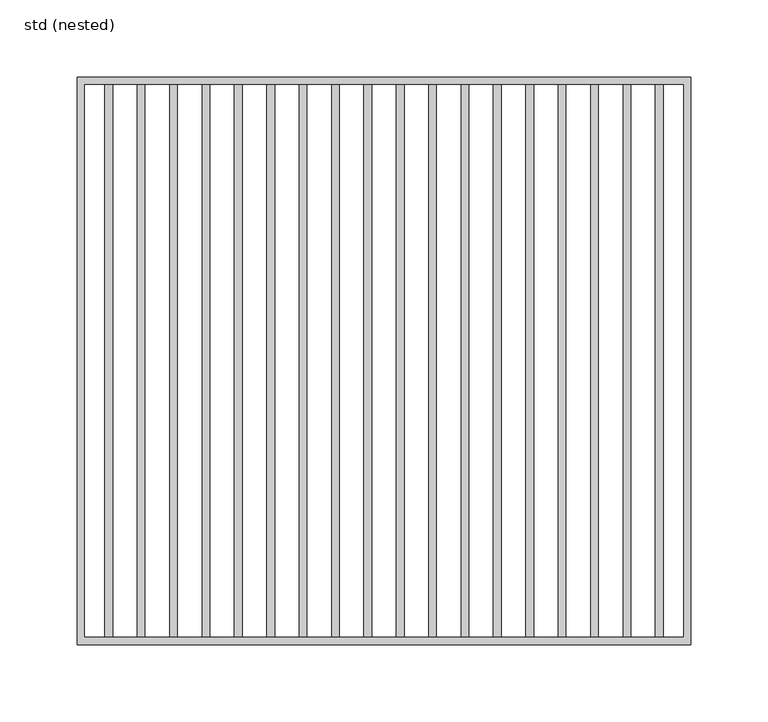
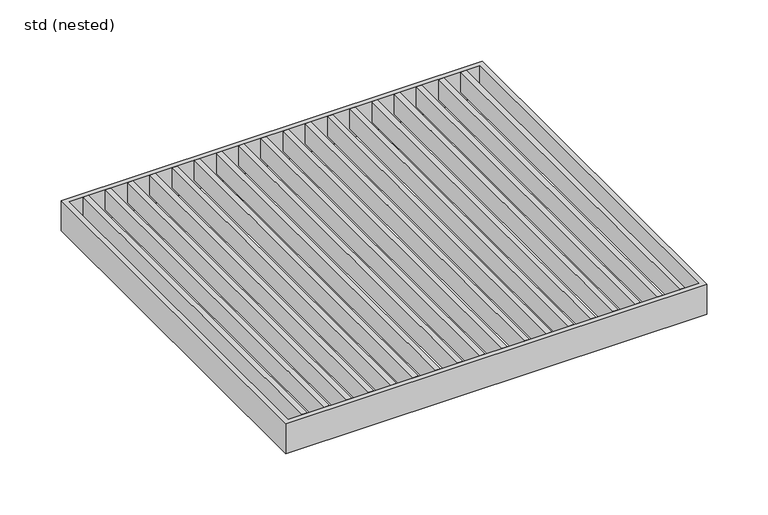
"""IFC4 building model written with IfcOpenShell, lengths in millimetres: sanitary terminal geometry, ZZZ_do not use_PF_ST_UN_grating for box channel_ACO : std (nested)."""

from ifc_helpers import new_model, si_unit, frame, origin, place, context, project, spatial, polyline, outline, extrude, source, transform, mapped, element, save


def std_nested_a716071c(model_context):
    return source(origin(), model_context, "Body", "SweptSolid", [
        extrude(outline(polyline([(-181.0, 179.0), (-176.0, 179.0), (-176.0, -179.0), (-181.0, -179.0), (-181.0, 179.0)])), frame((0.0, 0.0, -20.0), z_axis=(0.0, 0.0, 1.0), x_axis=(1.0, 0.0, 0.0)), (0.0, 0.0, 1.0), 20.0),
        extrude(outline(polyline([(-160.0, 179.0), (-155.0, 179.0), (-155.0, -179.0), (-160.0, -179.0), (-160.0, 179.0)])), frame((0.0, 0.0, -20.0), z_axis=(0.0, 0.0, 1.0), x_axis=(1.0, 0.0, 0.0)), (0.0, 0.0, 1.0), 20.0),
        extrude(outline(polyline([(-139.0, 179.0), (-134.0, 179.0), (-134.0, -179.0), (-139.0, -179.0), (-139.0, 179.0)])), frame((0.0, 0.0, -20.0), z_axis=(0.0, 0.0, 1.0), x_axis=(1.0, 0.0, 0.0)), (0.0, 0.0, 1.0), 20.0),
        extrude(outline(polyline([(-118.0, 179.0), (-113.0, 179.0), (-113.0, -179.0), (-118.0, -179.0), (-118.0, 179.0)])), frame((0.0, 0.0, -20.0), z_axis=(0.0, 0.0, 1.0), x_axis=(1.0, 0.0, 0.0)), (0.0, 0.0, 1.0), 20.0),
        extrude(outline(polyline([(-97.0, 179.0), (-92.0, 179.0), (-92.0, -179.0), (-97.0, -179.0), (-97.0, 179.0)])), frame((0.0, 0.0, -20.0), z_axis=(0.0, 0.0, 1.0), x_axis=(1.0, 0.0, 0.0)), (0.0, 0.0, 1.0), 20.0),
        extrude(outline(polyline([(-76.0, 179.0), (-71.0, 179.0), (-71.0, -179.0), (-76.0, -179.0), (-76.0, 179.0)])), frame((0.0, 0.0, -20.0), z_axis=(0.0, 0.0, 1.0), x_axis=(1.0, 0.0, 0.0)), (0.0, 0.0, 1.0), 20.0),
        extrude(outline(polyline([(-55.0, 179.0), (-50.0, 179.0), (-50.0, -179.0), (-55.0, -179.0), (-55.0, 179.0)])), frame((0.0, 0.0, -20.0), z_axis=(0.0, 0.0, 1.0), x_axis=(1.0, 0.0, 0.0)), (0.0, 0.0, 1.0), 20.0),
        extrude(outline(polyline([(-34.0, 179.0), (-29.0, 179.0), (-29.0, -179.0), (-34.0, -179.0), (-34.0, 179.0)])), frame((0.0, 0.0, -20.0), z_axis=(0.0, 0.0, 1.0), x_axis=(1.0, 0.0, 0.0)), (0.0, 0.0, 1.0), 20.0),
        extrude(outline(polyline([(181.0, 179.0), (181.0, -179.0), (176.0, -179.0), (176.0, 179.0), (181.0, 179.0)])), frame((0.0, 0.0, -20.0), z_axis=(0.0, 0.0, 1.0), x_axis=(1.0, 0.0, 0.0)), (0.0, 0.0, 1.0), 20.0),
        extrude(outline(polyline([(160.0, 179.0), (160.0, -179.0), (155.0, -179.0), (155.0, 179.0), (160.0, 179.0)])), frame((0.0, 0.0, -20.0), z_axis=(0.0, 0.0, 1.0), x_axis=(1.0, 0.0, 0.0)), (0.0, 0.0, 1.0), 20.0),
        extrude(outline(polyline([(139.0, 179.0), (139.0, -179.0), (134.0, -179.0), (134.0, 179.0), (139.0, 179.0)])), frame((0.0, 0.0, -20.0), z_axis=(0.0, 0.0, 1.0), x_axis=(1.0, 0.0, 0.0)), (0.0, 0.0, 1.0), 20.0),
        extrude(outline(polyline([(118.0, 179.0), (118.0, -179.0), (113.0, -179.0), (113.0, 179.0), (118.0, 179.0)])), frame((0.0, 0.0, -20.0), z_axis=(0.0, 0.0, 1.0), x_axis=(1.0, 0.0, 0.0)), (0.0, 0.0, 1.0), 20.0),
        extrude(outline(polyline([(97.0, 179.0), (97.0, -179.0), (92.0, -179.0), (92.0, 179.0), (97.0, 179.0)])), frame((0.0, 0.0, -20.0), z_axis=(0.0, 0.0, 1.0), x_axis=(1.0, 0.0, 0.0)), (0.0, 0.0, 1.0), 20.0),
        extrude(outline(polyline([(76.0, 179.0), (76.0, -179.0), (71.0, -179.0), (71.0, 179.0), (76.0, 179.0)])), frame((0.0, 0.0, -20.0), z_axis=(0.0, 0.0, 1.0), x_axis=(1.0, 0.0, 0.0)), (0.0, 0.0, 1.0), 20.0),
        extrude(outline(polyline([(55.0, 179.0), (55.0, -179.0), (50.0, -179.0), (50.0, 179.0), (55.0, 179.0)])), frame((0.0, 0.0, -20.0), z_axis=(0.0, 0.0, 1.0), x_axis=(1.0, 0.0, 0.0)), (0.0, 0.0, 1.0), 20.0),
        extrude(outline(polyline([(34.0, 179.0), (34.0, -179.0), (29.0, -179.0), (29.0, 179.0), (34.0, 179.0)])), frame((0.0, 0.0, -20.0), z_axis=(0.0, 0.0, 1.0), x_axis=(1.0, 0.0, 0.0)), (0.0, 0.0, 1.0), 20.0),
        extrude(outline(polyline([(-13.0, 179.0), (-8.0, 179.0), (-8.0, -179.0), (-13.0, -179.0), (-13.0, 179.0)])), frame((0.0, 0.0, -20.0), z_axis=(0.0, 0.0, 1.0), x_axis=(1.0, 0.0, 0.0)), (0.0, 0.0, 1.0), 20.0),
        extrude(outline(polyline([(13.0, 179.0), (13.0, -179.0), (8.0, -179.0), (8.0, 179.0), (13.0, 179.0)])), frame((0.0, 0.0, -20.0), z_axis=(0.0, 0.0, 1.0), x_axis=(1.0, 0.0, 0.0)), (0.0, 0.0, 1.0), 20.0),
        extrude(outline(polyline([(199.0, 184.0), (199.0, -184.0), (-199.0, -184.0), (-199.0, 184.0), (199.0, 184.0)]), holes=[polyline([(194.0, 179.0), (-194.0, 179.0), (-194.0, -179.0), (194.0, -179.0), (194.0, 179.0)])]), frame((0.0, 0.0, -30.0), z_axis=(0.0, 0.0, 1.0), x_axis=(1.0, 0.0, 0.0)), (0.0, 0.0, 1.0), 30.0),
    ])


if __name__ == "__main__":
    model = new_model("IFC4")
    model_context = context("Model", 3, world=origin())
    ifc_project = project(units=[si_unit("LENGTHUNIT", "METRE", prefix="MILLI")], contexts=[model_context])
    site = spatial("IfcSite", under=ifc_project)
    building = spatial("IfcBuilding", under=site)
    placement = place(None, origin())
    std_nested_shape = std_nested_a716071c(model_context)
    element("IfcSanitaryTerminal", 1, ObjectType="ZZZ_do not use_PF_ST_UN_grating for box channel_ACO : std (nested)", at=placement, inside=building, context=model_context, shape_type="MappedRepresentation", body=[
        mapped(std_nested_shape, transform((0.0, 0.0, 0.0), x_axis=(1.0, 0.0, 0.0), y_axis=(0.0, 1.0, 0.0), z_axis=(0.0, 0.0, 1.0))),
    ])
    save(model, "model.ifc")
